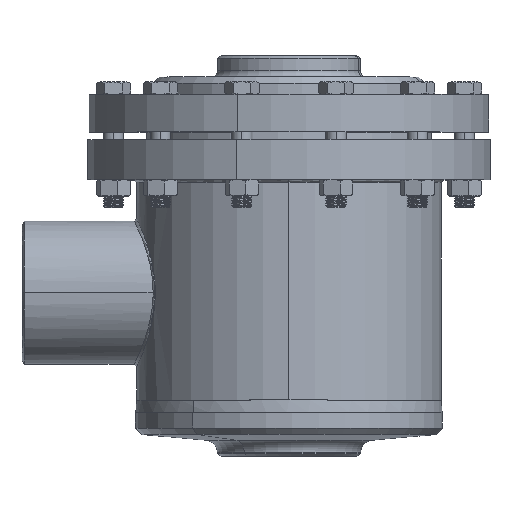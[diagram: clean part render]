
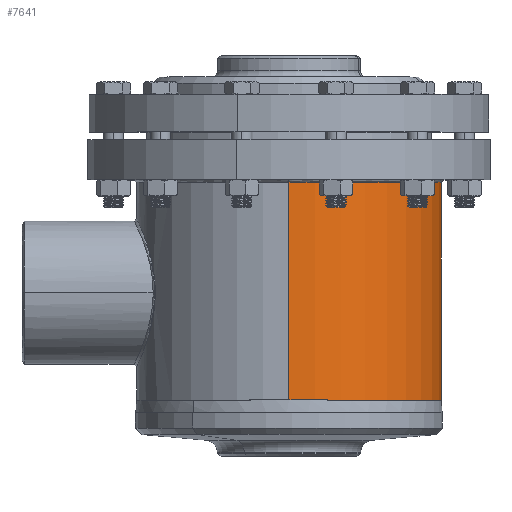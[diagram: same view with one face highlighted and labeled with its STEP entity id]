
A CAD part, top view. The second image highlights one B-rep face of the part: STEP entity #7641.
In plain terms, the highlighted cylindrical face has radius 121.5 mm (diameter 243 mm), a partial arc.
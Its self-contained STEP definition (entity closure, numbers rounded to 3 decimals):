
#16680 = CIRCLE ( 'NONE', #16681, 121.5 ) ;
#16681 = AXIS2_PLACEMENT_3D ( 'NONE', #16682, #16683, #16684 ) ;
#16682 = CARTESIAN_POINT ( 'NONE',  ( 0., -58.337, 0. ) ) ;
#16683 = DIRECTION ( 'NONE',  ( 0., 1., 0. ) ) ;
#16684 = DIRECTION ( 'NONE',  ( 0., 0., 1. ) ) ;
#575 = CARTESIAN_POINT ( 'NONE',  ( 0., -58.337, 121.5 ) ) ;
#17144 = LINE ( 'NONE', #17145, #17146 ) ;
#17145 = CARTESIAN_POINT ( 'NONE',  ( 0., 45.442, -121.5 ) ) ;
#17146 = VECTOR ( 'NONE', #17147, 1000. ) ;
#17147 = DIRECTION ( 'NONE',  ( 0., 1., 0. ) ) ;
#17660 = CARTESIAN_POINT ( 'NONE',  ( 0., 117.506, 121.5 ) ) ;
#2117 = EDGE_CURVE ( 'NONE', #10371, #14010, #16680, .T. ) ;
#2716 = CARTESIAN_POINT ( 'NONE',  ( 0., 117.506, -121.5 ) ) ;
#3053 = CARTESIAN_POINT ( 'NONE',  ( 0., -58.337, -121.5 ) ) ;
#3106 = EDGE_CURVE ( 'NONE', #14010, #30703, #17144, .T. ) ;
#4030 = VERTEX_POINT ( 'NONE', #17660 ) ;
#21960 = LINE ( 'NONE', #21961, #21962 ) ;
#21961 = CARTESIAN_POINT ( 'NONE',  ( 0., 45.442, 121.5 ) ) ;
#21962 = VECTOR ( 'NONE', #21963, 1000. ) ;
#21963 = DIRECTION ( 'NONE',  ( 0., 1., 0. ) ) ;
#22013 = FACE_OUTER_BOUND ( 'NONE', #7188, .T. ) ;
#22014 = CYLINDRICAL_SURFACE ( 'NONE', #22015, 121.5 ) ;
#22015 = AXIS2_PLACEMENT_3D ( 'NONE', #22016, #22035, #22036 ) ;
#22016 = CARTESIAN_POINT ( 'NONE',  ( 0., 45.442, 0. ) ) ;
#22035 = DIRECTION ( 'NONE',  ( 0., 1., 0. ) ) ;
#22036 = DIRECTION ( 'NONE',  ( 0., 0., 1. ) ) ;
#22252 = CIRCLE ( 'NONE', #22253, 121.5 ) ;
#22253 = AXIS2_PLACEMENT_3D ( 'NONE', #22254, #22255, #22256 ) ;
#22254 = CARTESIAN_POINT ( 'NONE',  ( 0., 117.506, 0. ) ) ;
#22255 = DIRECTION ( 'NONE',  ( 0., 1., 0. ) ) ;
#22256 = DIRECTION ( 'NONE',  ( 0., 0., 1. ) ) ;
#6192 = ORIENTED_EDGE ( 'NONE', *, *, #2117, .T. ) ;
#7188 = EDGE_LOOP ( 'NONE', ( #6192, #28466, #8177, #15753 ) ) ;
#7537 = EDGE_CURVE ( 'NONE', #10371, #4030, #21960, .T. ) ;
#7641 = ADVANCED_FACE ( 'NONE', ( #22013 ), #22014, .T. ) ;
#7928 = EDGE_CURVE ( 'NONE', #4030, #30703, #22252, .T. ) ;
#8177 = ORIENTED_EDGE ( 'NONE', *, *, #7928, .F. ) ;
#10371 = VERTEX_POINT ( 'NONE', #575 ) ;
#28466 = ORIENTED_EDGE ( 'NONE', *, *, #3106, .T. ) ;
#14010 = VERTEX_POINT ( 'NONE', #3053 ) ;
#30703 = VERTEX_POINT ( 'NONE', #2716 ) ;
#15753 = ORIENTED_EDGE ( 'NONE', *, *, #7537, .F. ) ;
